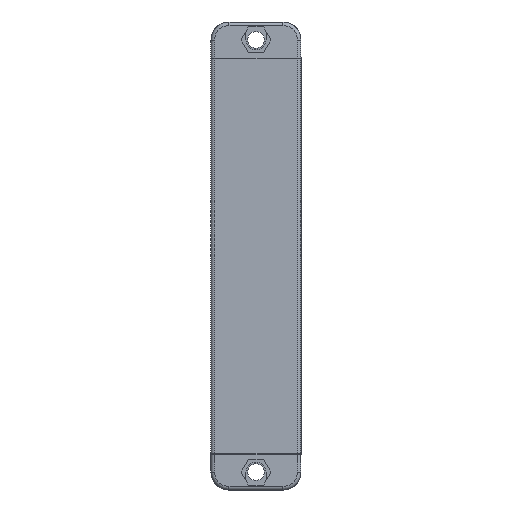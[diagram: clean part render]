
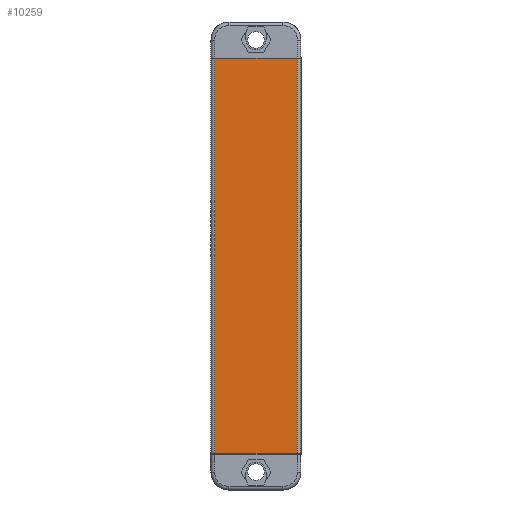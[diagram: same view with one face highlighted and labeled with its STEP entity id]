
A CAD part, front view. The second image highlights one B-rep face of the part: STEP entity #10259.
In plain terms, the highlighted planar face has unit normal (0, -1, 0).
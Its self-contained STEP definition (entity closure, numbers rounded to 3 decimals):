
#314 = CARTESIAN_POINT ( 'NONE',  ( -11.5, -6., 110. ) ) ;
#860 = LINE ( 'NONE', #4397, #4545 ) ;
#2626 = VECTOR ( 'NONE', #10925, 1000. ) ;
#2673 = DIRECTION ( 'NONE',  ( 1., 0., 0. ) ) ;
#3084 = LINE ( 'NONE', #6626, #5985 ) ;
#3099 = DIRECTION ( 'NONE',  ( 0., 1., 0. ) ) ;
#3850 = LINE ( 'NONE', #7395, #2626 ) ;
#3972 = FACE_OUTER_BOUND ( 'NONE', #7057, .T. ) ;
#4397 = CARTESIAN_POINT ( 'NONE',  ( -11.5, -6., 110. ) ) ;
#4464 = CARTESIAN_POINT ( 'NONE',  ( 11.5, -6., 110. ) ) ;
#4545 = VECTOR ( 'NONE', #7944, 1000. ) ;
#4578 = VERTEX_POINT ( 'NONE', #4464 ) ;
#5223 = AXIS2_PLACEMENT_3D ( 'NONE', #11045, #3099, #6644 ) ;
#5985 = VECTOR ( 'NONE', #10162, 1000. ) ;
#6197 = EDGE_CURVE ( 'NONE', #10195, #4578, #860, .T. ) ;
#6626 = CARTESIAN_POINT ( 'NONE',  ( -11.5, -6., 110. ) ) ;
#6644 = DIRECTION ( 'NONE',  ( 0., 0., 1. ) ) ;
#6832 = EDGE_CURVE ( 'NONE', #4578, #9080, #3850, .T. ) ;
#7057 = EDGE_LOOP ( 'NONE', ( #8036, #7932, #9406, #10618 ) ) ;
#7095 = LINE ( 'NONE', #10624, #9723 ) ;
#7395 = CARTESIAN_POINT ( 'NONE',  ( 11.5, -6., 110. ) ) ;
#7444 = EDGE_CURVE ( 'NONE', #10195, #8986, #3084, .T. ) ;
#7521 = PLANE ( 'NONE',  #5223 ) ;
#7932 = ORIENTED_EDGE ( 'NONE', *, *, #6832, .F. ) ;
#7944 = DIRECTION ( 'NONE',  ( 1., 0., 0. ) ) ;
#8036 = ORIENTED_EDGE ( 'NONE', *, *, #8895, .T. ) ;
#8144 = CARTESIAN_POINT ( 'NONE',  ( -11.5, -6., 0. ) ) ;
#8895 = EDGE_CURVE ( 'NONE', #8986, #9080, #7095, .T. ) ;
#8986 = VERTEX_POINT ( 'NONE', #8144 ) ;
#9080 = VERTEX_POINT ( 'NONE', #9283 ) ;
#9283 = CARTESIAN_POINT ( 'NONE',  ( 11.5, -6., 0. ) ) ;
#9406 = ORIENTED_EDGE ( 'NONE', *, *, #6197, .F. ) ;
#9723 = VECTOR ( 'NONE', #2673, 1000. ) ;
#10162 = DIRECTION ( 'NONE',  ( 0., 0., -1. ) ) ;
#10195 = VERTEX_POINT ( 'NONE', #314 ) ;
#10259 = ADVANCED_FACE ( 'NONE', ( #3972 ), #7521, .F. ) ;
#10618 = ORIENTED_EDGE ( 'NONE', *, *, #7444, .T. ) ;
#10624 = CARTESIAN_POINT ( 'NONE',  ( -0.005, -6., 0. ) ) ;
#10925 = DIRECTION ( 'NONE',  ( 0., 0., -1. ) ) ;
#11045 = CARTESIAN_POINT ( 'NONE',  ( -0.005, -6., 110. ) ) ;
